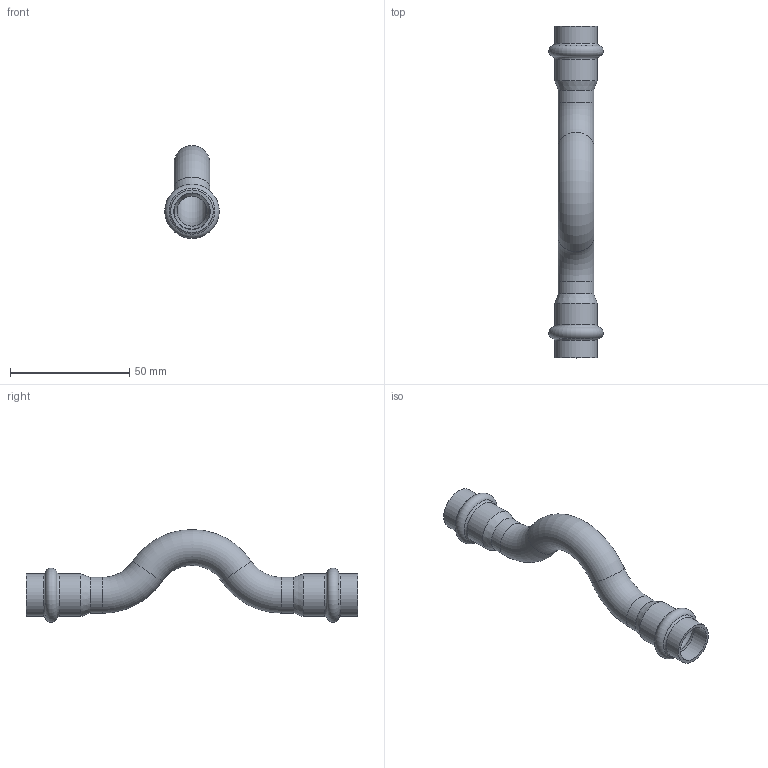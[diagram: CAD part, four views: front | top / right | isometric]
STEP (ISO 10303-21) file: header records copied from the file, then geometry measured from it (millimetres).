
FILE_DESCRIPTION(('STEP AP203'), '1');
FILE_NAME('VTi.971.I.001515', '', ('UNSPECIFIED'), ('UNSPECIFIED'), 'C3D Converter', 'C3D Toolkit', '');
FILE_SCHEMA(('CONFIG_CONTROL_DESIGN'));
Length unit declared in the file: millimetre
Products named in the file (1): ВР.302661.005.000 СБ
Bounding box: 22.79 x 139 x 38.89 mm (x, y, z)
Volume: 9823.9 mm3; surface area: 15801 mm2
Topology: 1 solids, 1 shells, 38 faces, 82 edges, 46 vertices
Faces by surface type: torus 20, cylinder 12, cone 4, plane 2
Full cylindrical faces by diameter (mm): 12.5 x2, 15 x2, 15.3 x4, 17.8 x4
Entity records: 888 total; most frequent: DIRECTION 170, CARTESIAN_POINT 131, ORIENTED_EDGE 92, AXIS2_PLACEMENT_3D 85, EDGE_LOOP 76, FACE_OUTER_BOUND 56, EDGE_CURVE 46, VERTEX_POINT 46
